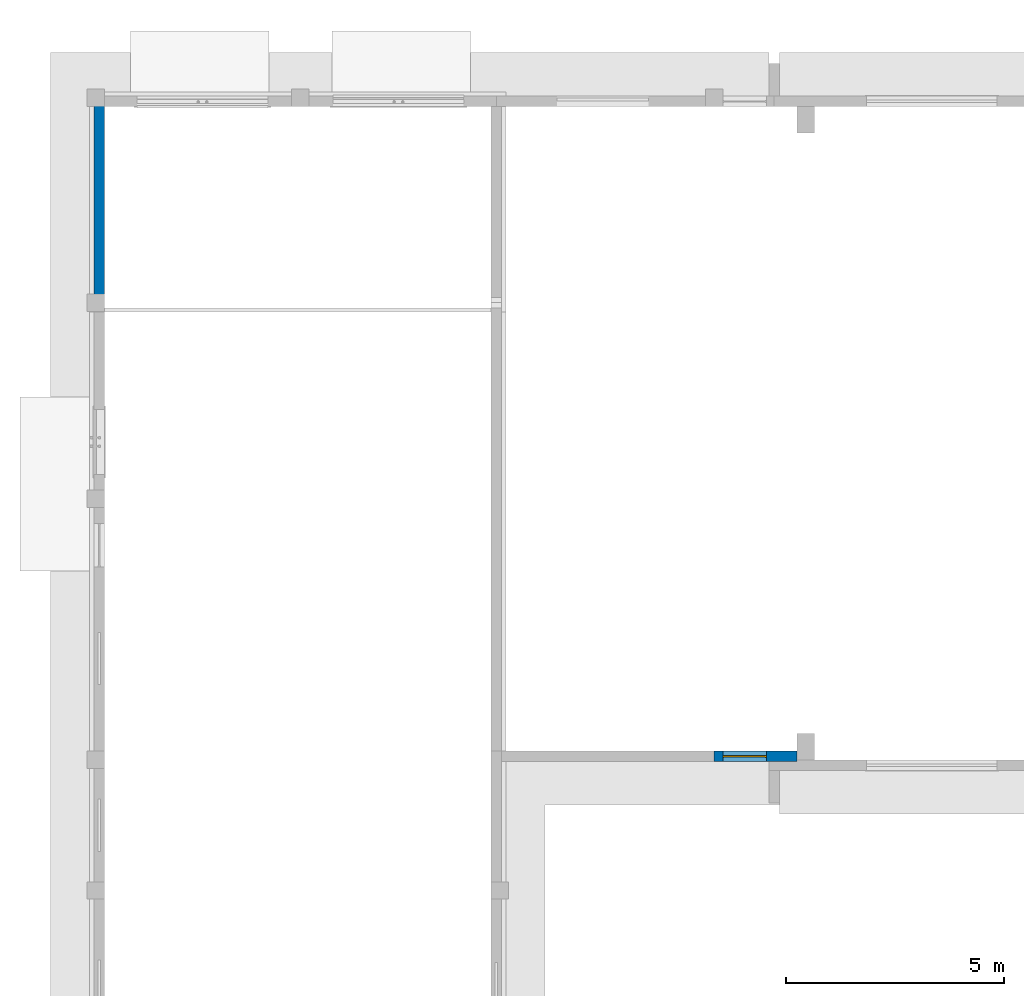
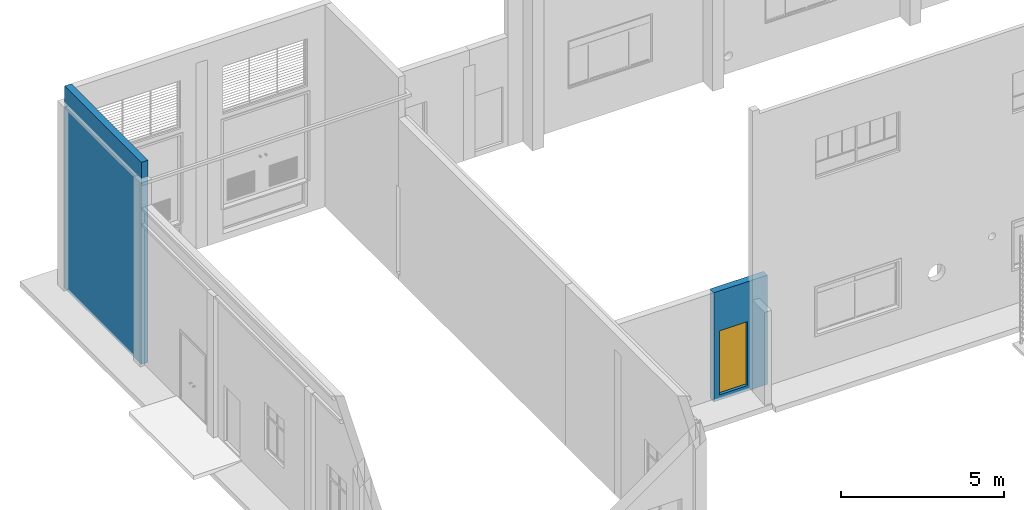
"""IFC2X3 building model written with IfcOpenShell, lengths in millimetres."""

from ifc_helpers import new_model, entity, si_unit, converted_unit, derived_unit, direction, frame, frame_2d, origin, origin_2d_with_axis, place, context, subcontext, project, spatial, polyline, rectangle, outline, extrude, source, transform, mapped, material, material_list, layer, layer_set, layer_usage, type_object, type_shapes, element, fill, save


model = new_model("IFC2X3")

# Units and contexts
model_context = context("Model", 3, precision=0.01, world=origin(), true_north=direction((6.12303176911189e-17, 1.0)))
body_context = subcontext(model_context, "Body", "Model", "MODEL_VIEW")
ifc_project = project(units=[si_unit("LENGTHUNIT", "METRE", prefix="MILLI"), si_unit("AREAUNIT", "SQUARE_METRE"), si_unit("VOLUMEUNIT", "CUBIC_METRE"), converted_unit("PLANEANGLEUNIT", "DEGREE", entity("IfcRatioMeasure", 0.0174532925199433), si_unit("PLANEANGLEUNIT", "RADIAN"), dimensions=[0, 0, 0, 0, 0, 0, 0]), si_unit("MASSUNIT", "GRAM", prefix="KILO"), derived_unit("MASSDENSITYUNIT", [(si_unit("MASSUNIT", "GRAM", prefix="KILO"), 1), (si_unit("LENGTHUNIT", "METRE"), -3)]), si_unit("TIMEUNIT", "SECOND"), si_unit("FREQUENCYUNIT", "HERTZ"), si_unit("THERMODYNAMICTEMPERATUREUNIT", "DEGREE_CELSIUS"), derived_unit("THERMALTRANSMITTANCEUNIT", [(si_unit("MASSUNIT", "GRAM", prefix="KILO"), 1), (si_unit("THERMODYNAMICTEMPERATUREUNIT", "KELVIN"), -1), (si_unit("TIMEUNIT", "SECOND"), -3)]), derived_unit("VOLUMETRICFLOWRATEUNIT", [(si_unit("LENGTHUNIT", "METRE"), 3), (si_unit("TIMEUNIT", "SECOND"), -1)]), si_unit("ELECTRICCURRENTUNIT", "AMPERE"), si_unit("ELECTRICVOLTAGEUNIT", "VOLT"), si_unit("POWERUNIT", "WATT"), si_unit("FORCEUNIT", "NEWTON", prefix="KILO"), si_unit("ILLUMINANCEUNIT", "LUX"), si_unit("LUMINOUSFLUXUNIT", "LUMEN"), si_unit("LUMINOUSINTENSITYUNIT", "CANDELA"), derived_unit("USERDEFINED", [(si_unit("MASSUNIT", "GRAM", prefix="KILO"), -1), (si_unit("LENGTHUNIT", "METRE"), -2), (si_unit("TIMEUNIT", "SECOND"), 3), (si_unit("LUMINOUSFLUXUNIT", "LUMEN"), 1)]), derived_unit("LINEARVELOCITYUNIT", [(si_unit("LENGTHUNIT", "METRE"), 1), (si_unit("TIMEUNIT", "SECOND"), -1)]), si_unit("PRESSUREUNIT", "PASCAL"), derived_unit("USERDEFINED", [(si_unit("LENGTHUNIT", "METRE"), -2), (si_unit("MASSUNIT", "GRAM", prefix="KILO"), 1), (si_unit("TIMEUNIT", "SECOND"), -2)])], contexts=[model_context])

# Site, building, storey
site_placement = place(None, origin())
site = spatial("IfcSite", under=ifc_project, at=site_placement, Name="表面", CompositionType="ELEMENT")
building_placement = place(site_placement, origin())
building = spatial("IfcBuilding", under=site, at=building_placement, CompositionType="ELEMENT")
storey_1_placement = place(building_placement, frame((0.0, 0.0, -200.0)))
storey_1 = spatial("IfcBuildingStorey", under=building, at=storey_1_placement, Name="室外地坪", CompositionType="ELEMENT", Elevation=-200.0)

# Wall
ifc_material_1 = material(Name="砖石建筑 - 砖")
ifc_layer_1 = layer(ifc_material_1, 240.0)
ifc_layer_set_1 = layer_set([ifc_layer_1], Name="基本墙:外砖墙240")
ifc_layer_usage_1 = layer_usage(ifc_layer_set_1, "AXIS2", "NEGATIVE", 120.0)
wall_type_1 = type_object("IfcWallType", Name="基本墙:外砖墙240", PredefinedType="STANDARD", material=ifc_layer_set_1)
wall_1_placement = place(storey_1_placement, frame((-47648.7987814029, 10989.6974073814, 0.0), z_axis=(0.0, 0.0, 1.0), x_axis=(0.0, 1.0, 0.0)))
element("IfcWallStandardCase", 1, at=wall_1_placement, inside=storey_1, type_object=wall_type_1, material=ifc_layer_usage_1, Name="基本墙:外砖墙240", ObjectType="基本墙:外砖墙240", context=body_context, shape_type="SweptSolid", body=[
    extrude(rectangle(XDim=4740.00000000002, YDim=239.999999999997, at=frame_2d((2490.00000000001, -4.9737991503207e-13), x_axis=(-1.0, 0.0))), origin(), (0.0, 0.0, 1.0), 7590.0),
])

# Wall, opening
ifc_layer_2 = layer(ifc_material_1, 240.0)
ifc_layer_set_2 = layer_set([ifc_layer_2], Name="基本墙:砖墙240mm")
ifc_layer_usage_2 = layer_usage(ifc_layer_set_2, "AXIS2", "NEGATIVE", 120.0)
wall_type_2 = type_object("IfcWallType", Name="基本墙:砖墙240mm", PredefinedType="STANDARD", material=ifc_layer_set_2)
wall_2_placement = place(storey_1_placement, frame((-33528.798781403, 689.697407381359, 0.0)))
wall_2 = element("IfcWallStandardCase", 2, at=wall_2_placement, inside=storey_1, type_object=wall_type_2, material=ifc_layer_usage_2, Name="基本墙:砖墙240mm", ObjectType="基本墙:砖墙240mm", context=body_context, shape_type="SweptSolid", body=[
    extrude(rectangle(XDim=1900.00000000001, YDim=240.0, at=frame_2d((950.000000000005, 6.3948846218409e-14), x_axis=(-1.0, 0.0))), origin(), (0.0, 0.0, 1.0), 4100.0),
])
opening_placement = place(wall_2_placement, frame((1200.0, 120.0, 200.0)))
opening = element("IfcOpeningElement", 3, at=opening_placement, cuts=wall_2, Name="单开门:M3:1", ObjectType="Opening", context=body_context, shape_type="SweptSolid", body=[
    extrude(rectangle(XDim=2399.99999999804, YDim=1000.0, at=frame_2d((1199.99999999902, 500.0), x_axis=(1.0, 0.0))), frame((0.0, 0.0, 0.0), z_axis=(0.0, -1.0, 0.0), x_axis=(0.0, 0.0, 1.0)), (0.0, 0.0, 1.0), 240.0),
])

# Storey
storey_2_placement = place(building_placement, origin())
storey_2 = spatial("IfcBuildingStorey", under=building, at=storey_2_placement, Name="±0.000", CompositionType="ELEMENT", Elevation=0.0)

# Door
ifc_material_2 = material(Name="塑钢")
ifc_material_3 = material(Name="木质 - 木材")
ifc_material_list_1 = material_list([ifc_material_2, ifc_material_3])
ifc_material_list_2 = material_list([ifc_material_2, ifc_material_3])
door_style = type_object("IfcDoorStyle", Name="M3", ConstructionType="NOTDEFINED", OperationType="SINGLE_SWING_RIGHT", ParameterTakesPrecedence=False, Sizeable=False, material=ifc_material_list_2)
shared_shape = source(origin(), body_context, "Body", "SweptSolid", [
    extrude(outline(polyline([(-1207.49999999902, -500.0), (1192.49999999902, -500.0), (1192.49999999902, -470.0), (-1177.49999999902, -470.0), (-1177.49999999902, 470.0), (1192.49999999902, 470.0), (1192.49999999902, 500.0), (-1207.49999999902, 500.0), (-1207.49999999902, -500.0)])), frame((500.0, 145.0, 1192.49999999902), z_axis=(0.0, -1.0, 0.0), x_axis=(0.0, 0.0, -1.0)), (0.0, 0.0, 1.0), 50.0),
    extrude(rectangle(XDim=940.0, YDim=30.0, at=origin_2d_with_axis()), frame((500.0, 120.0, 0.0)), (0.0, 0.0, 1.0), 2369.99999999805),
])
type_shapes(door_style, [shared_shape])
door_placement = place(opening_placement, frame((0.0, 0.0, 0.0), z_axis=(0.0, 0.0, 1.0), x_axis=(-1.0, 0.0, 0.0)))
door = element("IfcDoor", 4, at=door_placement, inside=storey_2, type_object=door_style, material=ifc_material_list_1, Name="单开门:M3", ObjectType="M3", OverallHeight=2399.99999999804, OverallWidth=1000.0, context=body_context, shape_type="MappedRepresentation", body=[
    mapped(shared_shape, transform((0.0, 0.0, 0.0), scale=1.0)),
])

fill(opening, door)

save(model, "model.ifc")
